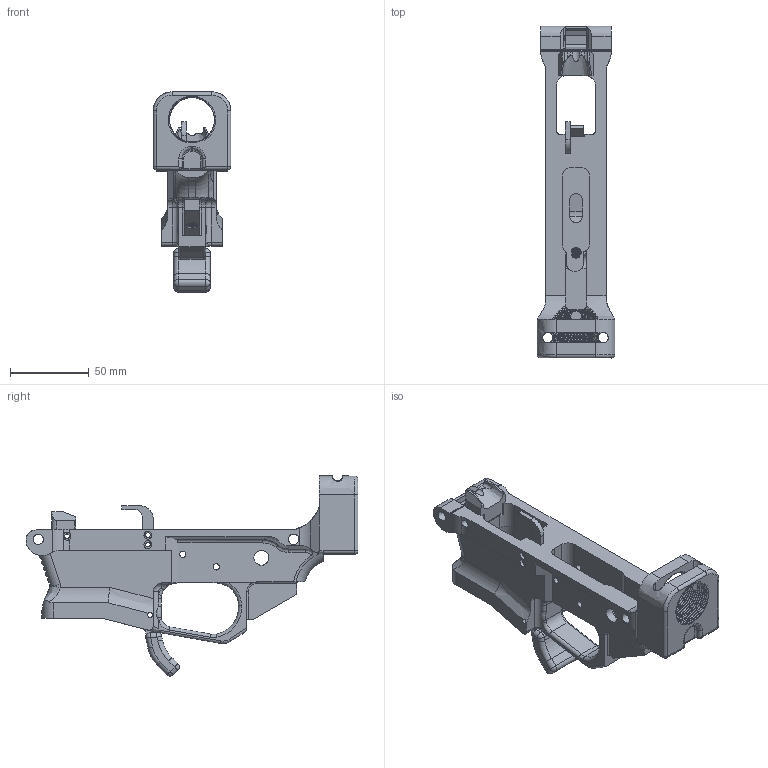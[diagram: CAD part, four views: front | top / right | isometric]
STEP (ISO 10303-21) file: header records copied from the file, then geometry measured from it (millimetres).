
FILE_DESCRIPTION(/* description */ (''),/* implementation_level */ '2;1');
FILE_NAME(/* name */ 'PCC 1.0/STEP/Lowers/AR-9 Vityas - Final.step',/* time_stamp */ '2022-04-10T13:42:35-04:00',/* author */ (''),/* organization */ (''),/* preprocessor_version */ 'ST-DEVELOPER v18.1',/* originating_system */ 'Autodesk Translation Framework v10.14.0.1471',/* authorisation */ '');
FILE_SCHEMA (('AUTOMOTIVE_DESIGN { 1 0 10303 214 3 1 1 }'));
Products named in the file (5): (Unsaved); Frame (6); Mag Catch (2) (1); Feed Ramp (1); Ejector-steel (3)
Assembly tree (4 placements, depth 2):
  (Unsaved)
    Frame (6)
    Mag Catch (2) (1)
    Feed Ramp (1)
    Ejector-steel (3)
Bounding box: 49.27 x 210.49 x 127.02 mm (x, y, z)
Volume: 204760.8 mm3; surface area: 71843.9 mm2
Topology: 4 solids, 4 shells, 699 faces, 1965 edges, 1262 vertices
Faces by surface type: cylinder 298, plane 226, bspline 131, torus 24, cone 10, sphere 10
Full cylindrical faces by diameter (mm): 3 x12, 3.175 x1, 3.962 x4, 5 x5, 5.172 x21, 6 x2, 6.35 x20, 6.5 x6, 6.75 x1, 9.525 x2, 28.47 x9, 30.043 x9
Entity records: 57945 total; most frequent: CARTESIAN_POINT 40900, ORIENTED_EDGE 3914, DIRECTION 2980, EDGE_CURVE 1957, VERTEX_POINT 1262, AXIS2_PLACEMENT_3D 1054, LINE 872, VECTOR 872
